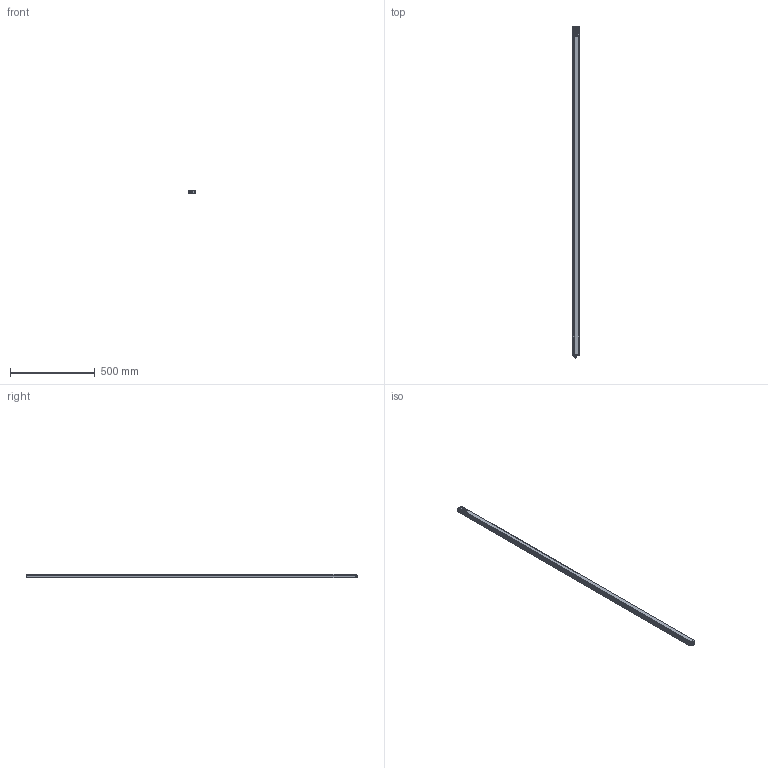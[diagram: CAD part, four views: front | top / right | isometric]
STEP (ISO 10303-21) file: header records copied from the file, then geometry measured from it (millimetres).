
FILE_DESCRIPTION(/* description */ (''),/* implementation_level */ '2;1');
FILE_NAME(/* name */ 'C:\Users\andre\SynologyDrive\Optoscan\Libreria Componenti\00 - Barriere\Barriera sorgente\Argo_1920_TX.stp',/* time_stamp */ '2021-04-22T10:28:42+02:00',/* author */ ('andre'),/* organization */ (''),/* preprocessor_version */ 'ST-DEVELOPER v18',/* originating_system */ 'Autodesk Inventor 2020',/* authorisation */ '');
FILE_SCHEMA (('AUTOMOTIVE_DESIGN { 1 0 10303 214 3 1 1 }'));
Length unit declared in the file: millimetre
Products named in the file (1): Argo_1920_TX
Bounding box: 40.5 x 1953.3 x 20.75 mm (x, y, z)
Volume: 385144.8 mm3; surface area: 506968.6 mm2
Topology: 1 solids, 1 shells, 696 faces, 1911 edges, 1225 vertices
Faces by surface type: plane 321, cylinder 195, bspline 94, torus 72, cone 8, sphere 6
Full cylindrical faces by diameter (mm): 1 x4, 2.459 x4, 2.5 x4, 3 x4, 3.5 x4, 5.5 x4, 8 x1, 10.5 x2, 11.75 x9, 15.7 x1, 17.5 x1
Entity records: 30770 total; most frequent: CARTESIAN_POINT 12670, ORIENTED_EDGE 3806, DIRECTION 3415, EDGE_CURVE 1903, VERTEX_POINT 1225, AXIS2_PLACEMENT_3D 1193, LINE 1029, VECTOR 1029
